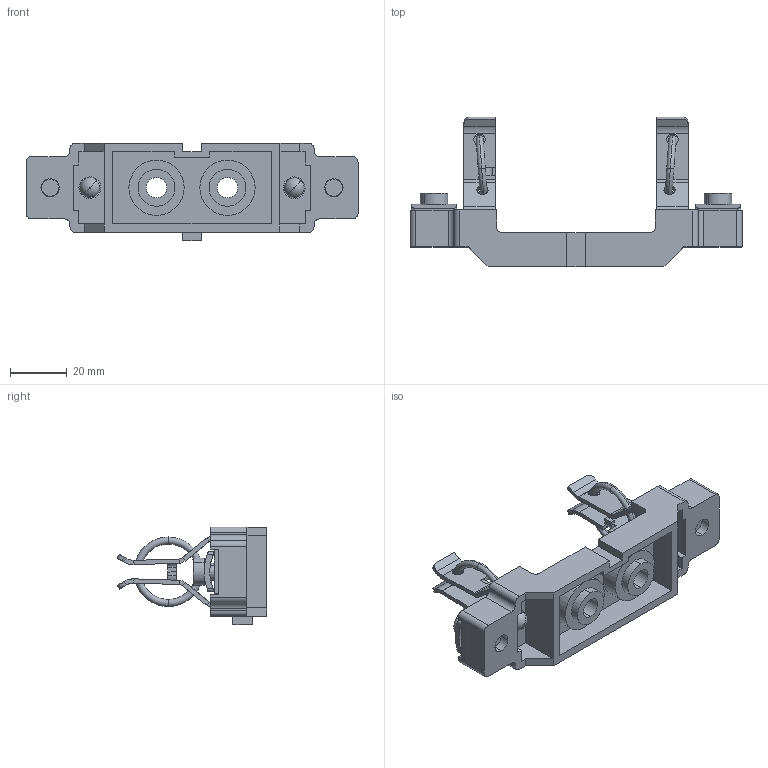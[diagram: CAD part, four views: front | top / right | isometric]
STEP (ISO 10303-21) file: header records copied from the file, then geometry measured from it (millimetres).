
FILE_DESCRIPTION (( 'STEP AP214' ), '1' );
FILE_NAME ('ﾎ魵瑙韃 ﾏﾍﾁ7-400_100.STEP', '2023-06-01T11:08:58', ( '' ), ( '' ), 'SwSTEP 2.0', 'SolidWorks 2018', '' );
FILE_SCHEMA (( 'AUTOMOTIVE_DESIGN' ));
Length unit declared in the file: millimetre
Products named in the file (1): ﾎ魵瑙韃 ﾏﾍﾁ7-400_100
Bounding box: 117 x 52.75 x 34.5 mm (x, y, z)
Volume: 31846.8 mm3; surface area: 26514.9 mm2
Topology: 15 solids, 15 shells, 449 faces, 1070 edges, 670 vertices
Faces by surface type: plane 249, cylinder 162, torus 32, bspline 6
Entity records: 20183 total; most frequent: CARTESIAN_POINT 4550, DIRECTION 2212, ORIENTED_EDGE 2140, EDGE_CURVE 1070, AXIS2_PLACEMENT_3D 788, VERTEX_POINT 670, LINE 636, VECTOR 636
